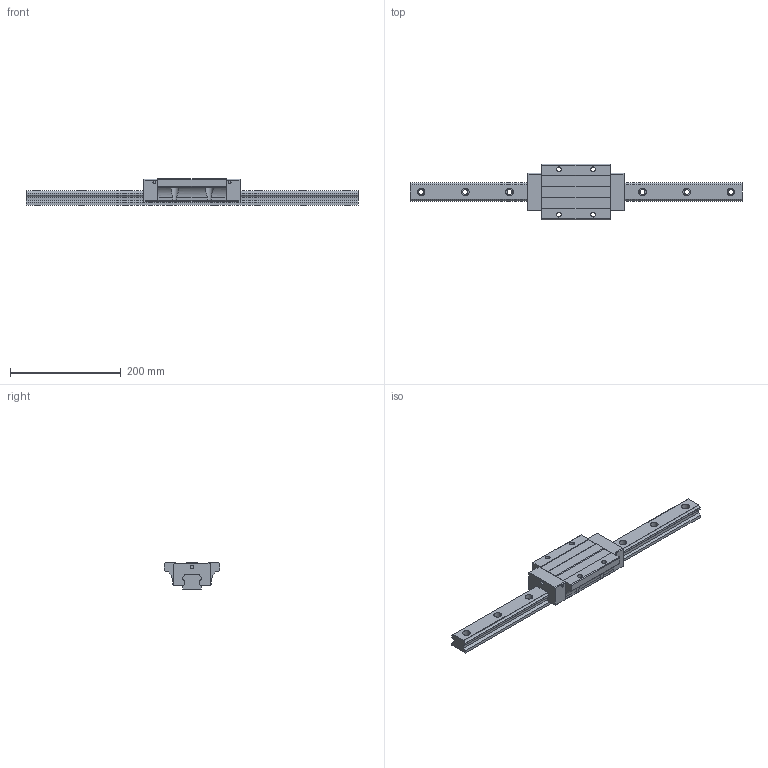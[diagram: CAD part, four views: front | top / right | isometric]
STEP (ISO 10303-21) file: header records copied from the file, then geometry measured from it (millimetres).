
FILE_DESCRIPTION (( 'STEP AP203' ), '1' );
FILE_NAME ('TRH35FE-WZ.STEP', '2024-05-09T02:32:50', ( '' ), ( '' ), 'SwSTEP 2.0', 'SolidWorks 2022', '' );
FILE_SCHEMA (( 'CONFIG_CONTROL_DESIGN' ));
Length unit declared in the file: millimetre
Products named in the file (1): TRH35FE-WZ
Bounding box: 600 x 100 x 48 mm (x, y, z)
Volume: 878760.2 mm3; surface area: 141603.3 mm2
Topology: 2 solids, 2 shells, 206 faces, 562 edges, 374 vertices
Faces by surface type: cylinder 106, plane 100
Entity records: 7339 total; most frequent: CARTESIAN_POINT 1849, DIRECTION 1144, ORIENTED_EDGE 1124, EDGE_CURVE 562, AXIS2_PLACEMENT_3D 397, VERTEX_POINT 374, LINE 350, VECTOR 350
